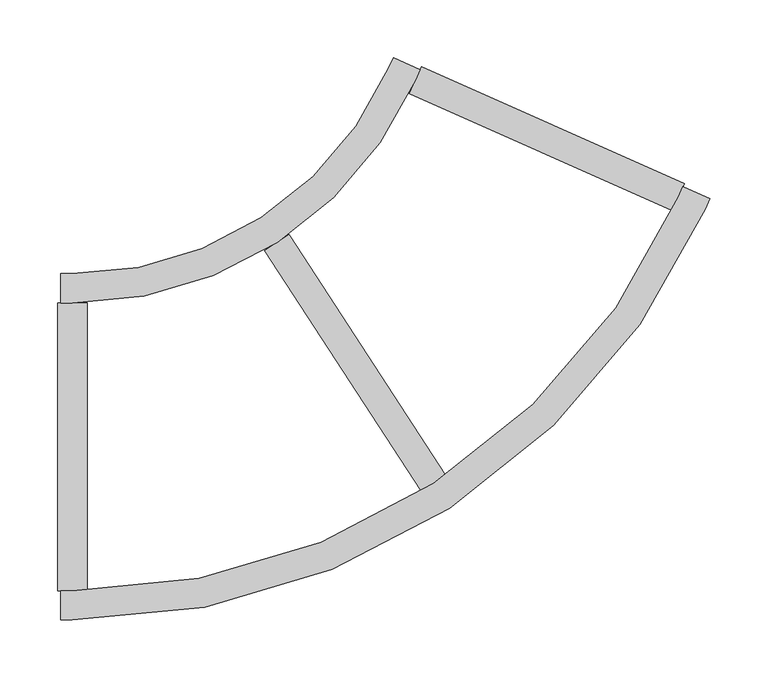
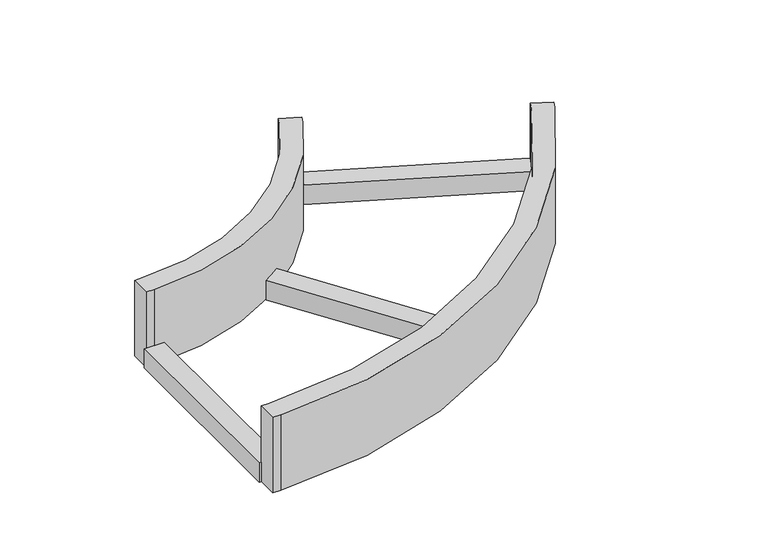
"""IFC4 building model written with IfcOpenShell, lengths in millimetres: cable carrier fitting geometry, ADSK_Поворот горизонтальный_Лестничный лоток : Радиус 300 мм."""

from ifc_helpers import new_model, si_unit, point, frame, frame_2d, origin, place, context, project, spatial, polyline, circle_curve, trimmed, segment, composite_curve, outline, extrude, source, transform, mapped, element, save


def cable_carrier_fitting_2dadae37(model_context):
    return source(origin(), model_context, "Body", "SweptSolid", [
        extrude(outline(polyline([(-0.1312804, 306.045869), (10.1998303, 329.2499237), (237.8553584, 227.8911522), (227.5242477, 204.6870976), (-0.1312804, 306.045869)])), frame((0.0, 0.0, -50.0), z_axis=(0.0, 0.0, 1.0), x_axis=(1.0, 0.0, 0.0)), (0.0, 0.0, 1.0), 25.4),
        extrude(outline(polyline([(-304.9334169, 124.6), (-279.5334169, 124.6), (-279.5334169, -124.6), (-304.9334169, -124.6), (-304.9334169, 124.6)])), frame((0.0, 0.0, -50.0), z_axis=(0.0, 0.0, 1.0), x_axis=(1.0, 0.0, 0.0)), (0.0, 0.0, 1.0), 25.4),
        extrude(outline(polyline([(-125.6589912, 170.1796815), (-104.3567587, 184.0135129), (31.3672888, -24.9831926), (10.0650564, -38.8170241), (-125.6589912, 170.1796815)])), frame((0.0, 0.0, -50.0), z_axis=(0.0, 0.0, 1.0), x_axis=(1.0, 0.0, 0.0)), (0.0, 0.0, 1.0), 25.4),
        extrude(outline(composite_curve([segment(polyline([(-302.2334169, -150.0), (-302.2334169, -124.6), (-292.2334169, -124.6)]), True, "CONTINUOUS"), segment(trimmed(circle_curve(frame_2d((-292.2334169, 450.0)), 574.6), [point((-292.2334169, -124.6))], [point((232.689803, 216.2891249))], True, "CARTESIAN"), True, "CONTINUOUS"), segment(polyline([(232.689803, 216.2891249), (236.7571695, 225.4245795), (259.9612241, 215.0934687), (255.8938576, 205.9580142)]), True, "CONTINUOUS"), segment(trimmed(circle_curve(frame_2d((-292.2334169, 450.0)), 600.0), [point((255.8938576, 205.9580142))], [point((-292.2334169, -150.0))], False, "CARTESIAN"), True, "CONTINUOUS"), segment(polyline([(-292.2334169, -150.0), (-302.2334169, -150.0)]), True, "CONTINUOUS")], self_intersect=False)), frame((0.0, 0.0, -50.0), z_axis=(0.0, 0.0, 1.0), x_axis=(1.0, 0.0, 0.0)), (0.0, 0.0, 1.0), 100.0),
        extrude(outline(composite_curve([segment(polyline([(-302.2334169, 124.6), (-302.2334169, 150.0), (-292.2334169, 150.0)]), True, "CONTINUOUS"), segment(trimmed(circle_curve(frame_2d((-292.2334169, 450.0)), 300.0), [point((-292.2334169, 150.0))], [point((-18.1697796, 327.9790071))], True, "CARTESIAN"), True, "CONTINUOUS"), segment(polyline([(-18.1697796, 327.9790071), (-14.1024132, 337.1144617), (9.1016414, 326.7833509), (5.034275, 317.6478963)]), True, "CONTINUOUS"), segment(trimmed(circle_curve(frame_2d((-292.2334169, 450.0)), 325.4), [point((5.034275, 317.6478963))], [point((-292.2334169, 124.6))], False, "CARTESIAN"), True, "CONTINUOUS"), segment(polyline([(-292.2334169, 124.6), (-302.2334169, 124.6)]), True, "CONTINUOUS")], self_intersect=False)), frame((0.0, 0.0, -50.0), z_axis=(0.0, 0.0, 1.0), x_axis=(1.0, 0.0, 0.0)), (0.0, 0.0, 1.0), 100.0),
    ])


if __name__ == "__main__":
    model = new_model("IFC4")
    model_context = context("Model", 3, world=origin())
    ifc_project = project(units=[si_unit("LENGTHUNIT", "METRE", prefix="MILLI")], contexts=[model_context])
    site = spatial("IfcSite", under=ifc_project)
    building = spatial("IfcBuilding", under=site)
    placement = place(None, origin())
    cable_carrier_fitting_shape = cable_carrier_fitting_2dadae37(model_context)
    element("IfcCableCarrierFitting", 1, ObjectType="ADSK_Поворот горизонтальный_Лестничный лоток : Радиус 300 мм", at=placement, inside=building, context=model_context, shape_type="MappedRepresentation", body=[
        mapped(cable_carrier_fitting_shape, transform((0.0, 0.0, 0.0), x_axis=(1.0, 0.0, 0.0), y_axis=(0.0, 1.0, 0.0), z_axis=(0.0, 0.0, 1.0))),
    ])
    save(model, "model.ifc")
